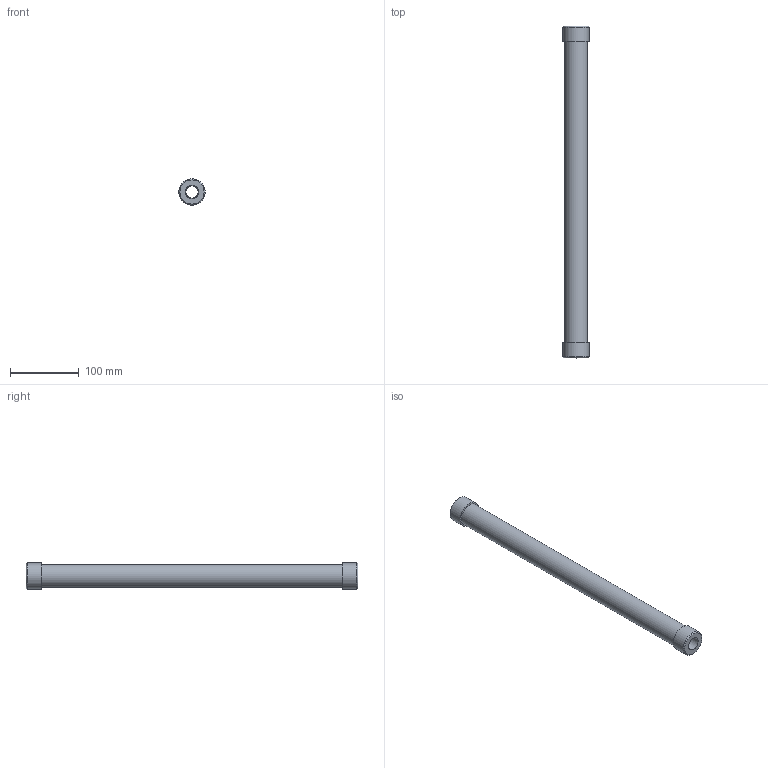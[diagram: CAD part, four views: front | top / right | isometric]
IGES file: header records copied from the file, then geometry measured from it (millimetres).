
Start section: SolidWorks IGES file using analytic representation for surfaces
Global section: file name: F:\Griffco-Valve\Griffco_current-projects\GV_web-files_2015\CAL cylinders\CC0200_P_BSPT.IGS; native system: SolidWorks 2014; preprocessor: SolidWorks 2014; author: Dan; date: 160321.044207; units: inch
Bounding box: 38.1 x 482.6 x 38.1 mm (x, y, z)
Surface area: 92757.6 mm2 (no closed solid volume)
Topology: 0 solids, 0 shells, 18 faces, 47 edges, 37 vertices
Faces by surface type: revolution 10, bspline 8
